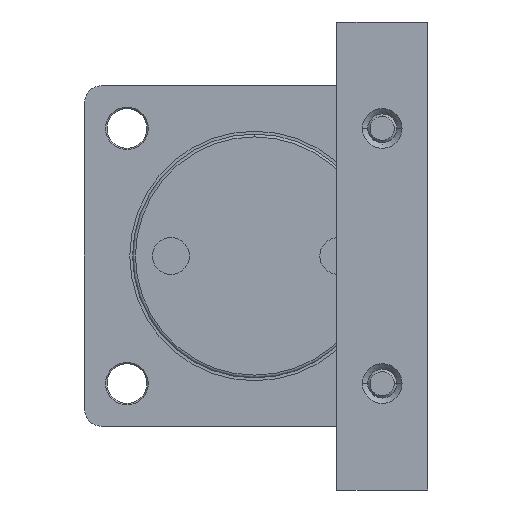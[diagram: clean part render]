
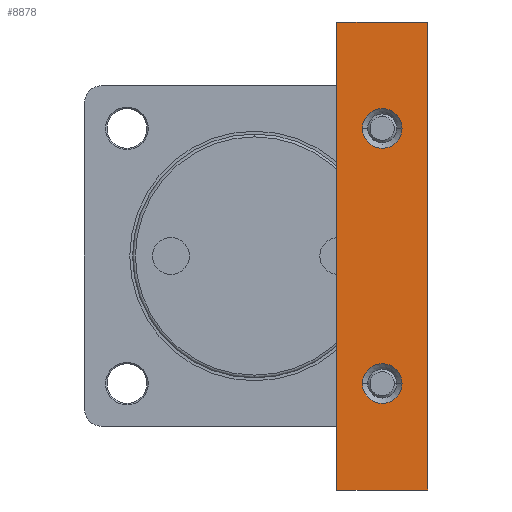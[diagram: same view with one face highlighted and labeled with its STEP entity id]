
A CAD part, left-side view. The second image highlights one B-rep face of the part: STEP entity #8878.
In plain terms, the highlighted planar face has unit normal (1, 0, 0).
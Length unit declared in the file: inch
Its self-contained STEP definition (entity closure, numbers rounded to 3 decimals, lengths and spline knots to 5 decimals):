
#8 = DIRECTION ( 'NONE',  ( 0., -1., 0. ) ) ;
#22 = ORIENTED_EDGE ( 'NONE', *, *, #5988, .T. ) ;
#23 = DIRECTION ( 'NONE',  ( -1., 0., 0. ) ) ;
#26 = CARTESIAN_POINT ( 'NONE',  ( -2.1063, -1.77165, -1.77165 ) ) ;
#2807 = AXIS2_PLACEMENT_3D ( 'NONE', #7851, #7834, #7832 ) ;
#3087 = CARTESIAN_POINT ( 'NONE',  ( -2.1063, -2.40157, 3.24803 ) ) ;
#3181 = DIRECTION ( 'NONE',  ( 0., 0., -1. ) ) ;
#3275 = CARTESIAN_POINT ( 'NONE',  ( -2.1063, -1.49606, 1.77165 ) ) ;
#3676 = CARTESIAN_POINT ( 'NONE',  ( -2.1063, -2.40157, 3.24803 ) ) ;
#3718 = AXIS2_PLACEMENT_3D ( 'NONE', #8977, #8968, #8949 ) ;
#3982 = EDGE_CURVE ( 'NONE', #12244, #11778, #14154, .T. ) ;
#3984 = ORIENTED_EDGE ( 'NONE', *, *, #6765, .T. ) ;
#4107 = DIRECTION ( 'NONE',  ( 0., 0., -1. ) ) ;
#4111 = DIRECTION ( 'NONE',  ( 1., 0., 0. ) ) ;
#4121 = CARTESIAN_POINT ( 'NONE',  ( -2.1063, -2.40157, 3.24803 ) ) ;
#4124 = CARTESIAN_POINT ( 'NONE',  ( -2.1063, -2.40157, 3.24803 ) ) ;
#4128 = ORIENTED_EDGE ( 'NONE', *, *, #3982, .T. ) ;
#4245 = DIRECTION ( 'NONE',  ( 0., -1., 0. ) ) ;
#4248 = CARTESIAN_POINT ( 'NONE',  ( -2.1063, -2.04724, 1.77165 ) ) ;
#4255 = DIRECTION ( 'NONE',  ( -1., 0., 0. ) ) ;
#4258 = CARTESIAN_POINT ( 'NONE',  ( -2.1063, -1.77165, 1.77165 ) ) ;
#4655 = DIRECTION ( 'NONE',  ( 0., -1., 0. ) ) ;
#5042 = EDGE_CURVE ( 'NONE', #12534, #12391, #11855, .T. ) ;
#5088 = DIRECTION ( 'NONE',  ( 0., 0., 1. ) ) ;
#5113 = CARTESIAN_POINT ( 'NONE',  ( -2.1063, -1.14173, -3.24803 ) ) ;
#5160 = CARTESIAN_POINT ( 'NONE',  ( -2.1063, -1.14173, 3.24803 ) ) ;
#5286 = PLANE ( 'NONE',  #9368 ) ;
#5988 = EDGE_CURVE ( 'NONE', #12391, #12534, #10799, .T. ) ;
#6177 = FACE_BOUND ( 'NONE', #12844, .T. ) ;
#6195 = FACE_OUTER_BOUND ( 'NONE', #13104, .T. ) ;
#6212 = EDGE_CURVE ( 'NONE', #11778, #12244, #10428, .T. ) ;
#6249 = FACE_BOUND ( 'NONE', #12863, .T. ) ;
#6256 = EDGE_CURVE ( 'NONE', #12362, #12772, #10351, .T. ) ;
#6282 = AXIS2_PLACEMENT_3D ( 'NONE', #26, #23, #8 ) ;
#6577 = EDGE_CURVE ( 'NONE', #12772, #12868, #9913, .T. ) ;
#6765 = EDGE_CURVE ( 'NONE', #12868, #13152, #9629, .T. ) ;
#7006 = EDGE_CURVE ( 'NONE', #13152, #12362, #9194, .T. ) ;
#7366 = CARTESIAN_POINT ( 'NONE',  ( -2.1063, -2.04724, -1.77165 ) ) ;
#7712 = CARTESIAN_POINT ( 'NONE',  ( -2.1063, -2.40157, -3.24803 ) ) ;
#7832 = DIRECTION ( 'NONE',  ( 0., -1., 0. ) ) ;
#7834 = DIRECTION ( 'NONE',  ( -1., 0., 0. ) ) ;
#7851 = CARTESIAN_POINT ( 'NONE',  ( -2.1063, -1.77165, 1.77165 ) ) ;
#7877 = DIRECTION ( 'NONE',  ( 0., 1., 0. ) ) ;
#8878 = ADVANCED_FACE ( 'NONE', ( #6249, #6177, #6195 ), #5286, .T. ) ;
#8949 = DIRECTION ( 'NONE',  ( 0., -1., 0. ) ) ;
#8968 = DIRECTION ( 'NONE',  ( -1., 0., 0. ) ) ;
#8977 = CARTESIAN_POINT ( 'NONE',  ( -2.1063, -1.77165, -1.77165 ) ) ;
#9182 = VECTOR ( 'NONE', #3181, 39.37008 ) ;
#9194 = LINE ( 'NONE', #3087, #9182 ) ;
#9322 = ORIENTED_EDGE ( 'NONE', *, *, #6212, .T. ) ;
#9368 = AXIS2_PLACEMENT_3D ( 'NONE', #4121, #4111, #4107 ) ;
#9601 = VECTOR ( 'NONE', #4655, 39.37008 ) ;
#9617 = ORIENTED_EDGE ( 'NONE', *, *, #6256, .T. ) ;
#9629 = LINE ( 'NONE', #4124, #9601 ) ;
#9861 = VECTOR ( 'NONE', #5088, 39.37008 ) ;
#9913 = LINE ( 'NONE', #5160, #9861 ) ;
#10067 = ORIENTED_EDGE ( 'NONE', *, *, #6577, .T. ) ;
#10351 = LINE ( 'NONE', #7712, #10412 ) ;
#10412 = VECTOR ( 'NONE', #7877, 39.37008 ) ;
#10428 = CIRCLE ( 'NONE', #2807, 0.27559 ) ;
#10715 = AXIS2_PLACEMENT_3D ( 'NONE', #4258, #4255, #4245 ) ;
#10799 = CIRCLE ( 'NONE', #3718, 0.27559 ) ;
#11493 = ORIENTED_EDGE ( 'NONE', *, *, #7006, .T. ) ;
#11778 = VERTEX_POINT ( 'NONE', #3275 ) ;
#11855 = CIRCLE ( 'NONE', #6282, 0.27559 ) ;
#12244 = VERTEX_POINT ( 'NONE', #4248 ) ;
#12362 = VERTEX_POINT ( 'NONE', #14649 ) ;
#12391 = VERTEX_POINT ( 'NONE', #14018 ) ;
#12534 = VERTEX_POINT ( 'NONE', #7366 ) ;
#12772 = VERTEX_POINT ( 'NONE', #5113 ) ;
#12844 = EDGE_LOOP ( 'NONE', ( #4128, #9322 ) ) ;
#12863 = EDGE_LOOP ( 'NONE', ( #12885, #22 ) ) ;
#12868 = VERTEX_POINT ( 'NONE', #13987 ) ;
#12885 = ORIENTED_EDGE ( 'NONE', *, *, #5042, .T. ) ;
#13104 = EDGE_LOOP ( 'NONE', ( #9617, #10067, #3984, #11493 ) ) ;
#13152 = VERTEX_POINT ( 'NONE', #3676 ) ;
#13987 = CARTESIAN_POINT ( 'NONE',  ( -2.1063, -1.14173, 3.24803 ) ) ;
#14018 = CARTESIAN_POINT ( 'NONE',  ( -2.1063, -1.49606, -1.77165 ) ) ;
#14154 = CIRCLE ( 'NONE', #10715, 0.27559 ) ;
#14649 = CARTESIAN_POINT ( 'NONE',  ( -2.1063, -2.40157, -3.24803 ) ) ;
